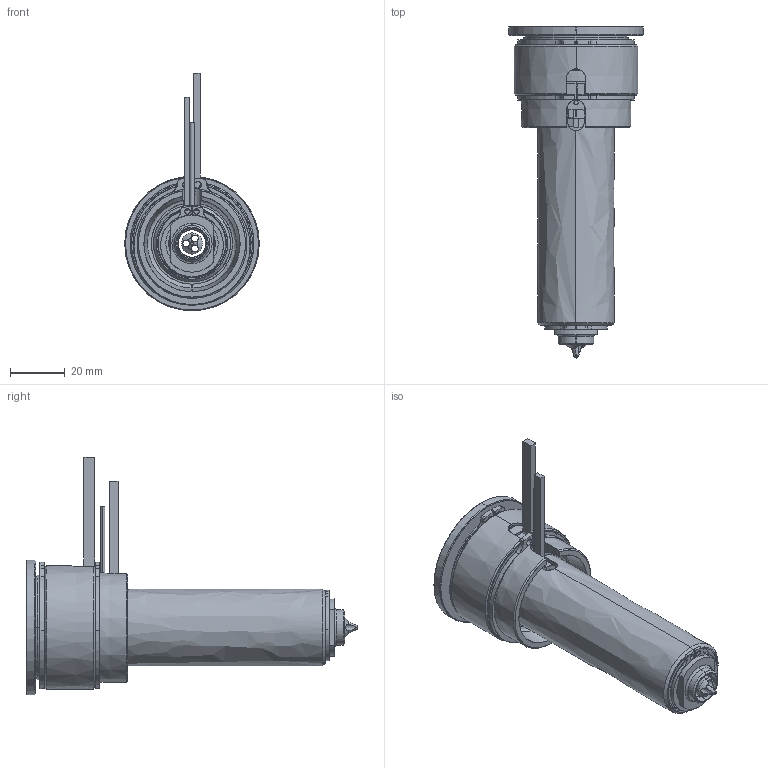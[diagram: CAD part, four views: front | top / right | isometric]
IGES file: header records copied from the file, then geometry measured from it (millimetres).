
Start section: SolidWorks IGES file using analytic representation for surfaces
Global section: file name: C:\Documents and Settings\ws-20\Desktop\TEM\UGEP4502-S-A-0 [Øf-1.17 ØC-10].IGS; native system: SolidWorks 2012; preprocessor: SolidWorks 2012; author: ws-20; date: 120424.090619; units: millimetre
Bounding box: 49 x 120.8 x 86.5 mm (x, y, z)
Surface area: 48403.3 mm2 (no closed solid volume)
Topology: 0 solids, 0 shells, 187 faces, 3577 edges, 3577 vertices
Faces by surface type: revolution 120, bspline 67
